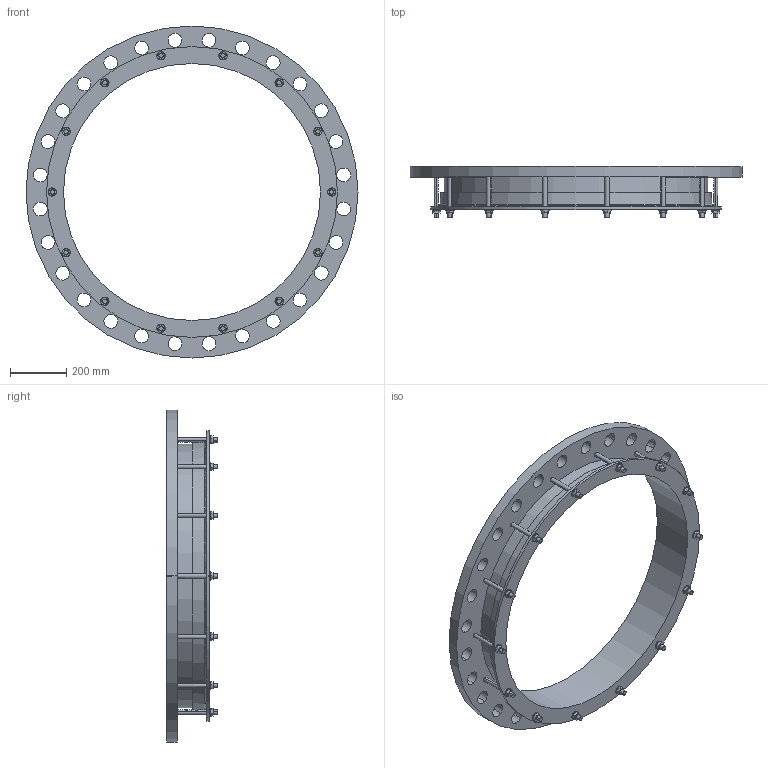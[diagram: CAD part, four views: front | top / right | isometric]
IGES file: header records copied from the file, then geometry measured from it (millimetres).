
Start section:  PTC IGES file: 914x900pn25_7not.igs
Global section: file name: 914x900pn25_7not.igs; native system: Creo Parametric by PTC Inc.; preprocessor: 2016130; author: mfairey; organization: Unknown; date: 20190404.144939; units: millimetre
Bounding box: 1185 x 182 x 1185 mm (x, y, z)
Surface area: 2247988.3 mm2 (no closed solid volume)
Topology: 0 solids, 0 shells, 284 faces, 1504 edges, 1504 vertices
Faces by surface type: revolution 154, bspline 130
